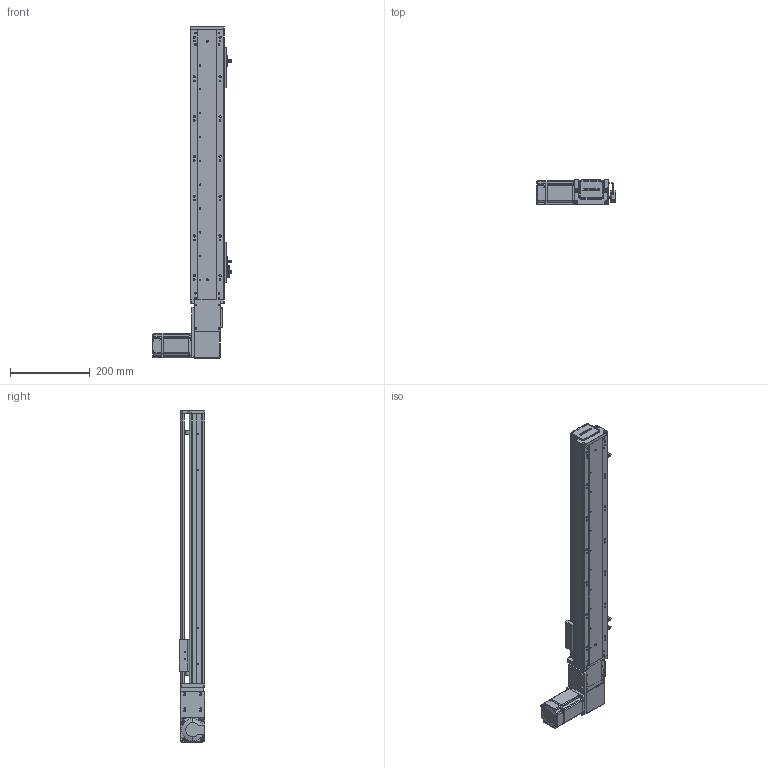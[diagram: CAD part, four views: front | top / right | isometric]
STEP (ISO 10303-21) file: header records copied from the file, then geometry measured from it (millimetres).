
FILE_DESCRIPTION (( 'STEP AP203' ), '1' );
FILE_NAME ('RY80-T-300-LK.SLDASM_500.step', '2021-03-01T01:58:11', ( '盈信电脑' ), ( '东莞市道滘镇水果街19号' ), 'SwSTEP 2.0', 'SolidWorks 2012', '' );
FILE_SCHEMA (( 'CONFIG_CONTROL_DESIGN' ));
Length unit declared in the file: millimetre
Products named in the file (19): RY80-T-300-LK.SLDASM_500; RY80-T-M4蹟翐; RY80-T萇儂假蚾啣; RY80-T肮祭謫俋欶; 侂狟200W萇儂; 1; RY80-T粣創揤踡輸; RY80-T翋肮祭謫裔啣; 滅袉蝶18-10; RY80-T-翋肮祭謫釱; RY80-T肮祭湍揤輸1; RY80俋离覜茼え; RY80-T肮祭湍揤輸2; RY80-T綴裔啣; 672嫖萇羲壽假蚾釱; 覜茼ん672; RY80-T-300-LK倰第奻裔啣_500; RY80-T-300-LK倰第菁釱_500; RY80-T肮祭謫臏賑輸
Assembly tree (24 placements, depth 3):
  RY80-T-300-LK.SLDASM_500
    RY80-T-300-LK倰第菁釱_500
    RY80-T肮祭謫臏賑輸
    RY80-T-300-LK倰第奻裔啣_500
    RY80-T綴裔啣
    672嫖萇羲壽假蚾釱  x2
    覜茼ん672  x3
    RY80俋离覜茼え
    RY80-T-翋肮祭謫釱
    RY80-T肮祭湍揤輸1
    RY80-T肮祭湍揤輸2
    RY80-T粣創揤踡輸
    RY80-T翋肮祭謫裔啣  x2
    滅袉蝶18-10  x2
    侂狟200W萇儂
      1
    RY80-T肮祭謫俋欶
    RY80-T萇儂假蚾啣
    RY80-T-M4蹟翐  x2
Bounding box: 198.7 x 65 x 835 mm (x, y, z)
Volume: 1529416.6 mm3; surface area: 618166.2 mm2
Topology: 23 solids, 23 shells, 2443 faces, 6737 edges, 4377 vertices
Faces by surface type: plane 1319, cylinder 920, cone 148, bspline 56
Entity records: 76605 total; most frequent: CARTESIAN_POINT 18573, ORIENTED_EDGE 11918, DIRECTION 11184, EDGE_CURVE 5959, VERTEX_POINT 3918, AXIS2_PLACEMENT_3D 3749, LINE 3686, VECTOR 3686
